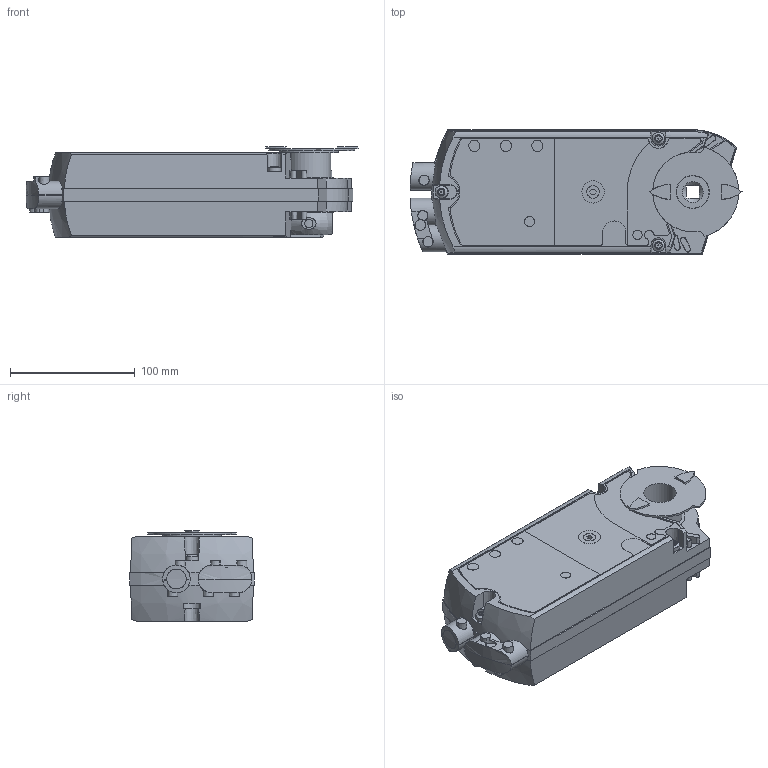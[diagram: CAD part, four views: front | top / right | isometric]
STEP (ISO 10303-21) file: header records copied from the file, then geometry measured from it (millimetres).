
FILE_DESCRIPTION(/* description */ (''),/* implementation_level */ '2;1');
FILE_NAME(/* name */ 'GGA..1E.stp',/* time_stamp */ '2014-09-16T13:06:55+02:00',/* author */ (''),/* organization */ (''),/* preprocessor_version */ 'ST-DEVELOPER v15',/* originating_system */ 'SIEMENS PLM Software NX 8.5',/* authorisation */ '');
FILE_SCHEMA (('AUTOMOTIVE_DESIGN { 1 0 10303 214 3 1 1 1 }'));
Length unit declared in the file: millimetre
Products named in the file (1): 8000077841_01
Bounding box: 266.59 x 100.06 x 72.35 mm (x, y, z)
Volume: 1393877.3 mm3; surface area: 110123.1 mm2
Topology: 1 solids, 2 shells, 446 faces, 1200 edges, 798 vertices
Faces by surface type: plane 221, cylinder 159, cone 54, sphere 4, bspline 4, torus 4
Full cylindrical faces by diameter (mm): 0.75 x3, 6.75 x1, 6.985 x1, 7.4 x2, 8 x2, 9 x5, 10 x5, 18 x2, 26.508 x1, 35.3 x1, 40.2 x1, 47 x1
Entity records: 18502 total; most frequent: CARTESIAN_POINT 4377, DIRECTION 2326, ORIENTED_EDGE 2248, EDGE_CURVE 1124, AXIS2_PLACEMENT_3D 899, VERTEX_POINT 765, EDGE_LOOP 531, LINE 528
